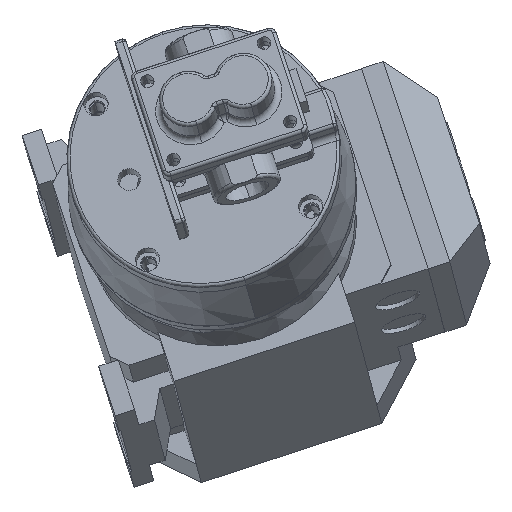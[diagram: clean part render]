
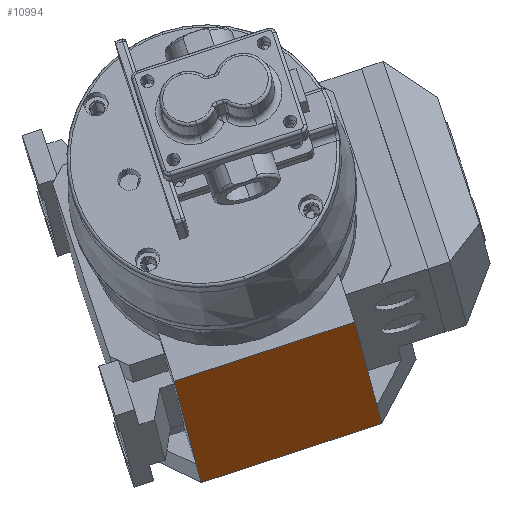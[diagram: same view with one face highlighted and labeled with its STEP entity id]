
A CAD part, top view. The second image highlights one B-rep face of the part: STEP entity #10994.
In plain terms, the highlighted planar face has unit normal (0.301, -0.907, 0.294).
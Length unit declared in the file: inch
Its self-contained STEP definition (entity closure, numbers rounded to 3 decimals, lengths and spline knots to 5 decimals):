
#1098 = DIRECTION ( 'NONE',  ( 0.076, -0.284, -0.956 ) ) ;
#1623 = CARTESIAN_POINT ( 'NONE',  ( 1.64024, -8.63373, 1.96015 ) ) ;
#1691 = CARTESIAN_POINT ( 'NONE',  ( -1.10201, -11.08724, -2.80163 ) ) ;
#1918 = EDGE_CURVE ( 'NONE', #4844, #5272, #11934, .T. ) ;
#2267 = VECTOR ( 'NONE', #24303, 39.37008 ) ;
#2825 = VECTOR ( 'NONE', #24440, 39.37008 ) ;
#3073 = EDGE_CURVE ( 'NONE', #5131, #4844, #19110, .T. ) ;
#3218 = DIRECTION ( 'NONE',  ( -0.951, -0.31, 0.016 ) ) ;
#3311 = ORIENTED_EDGE ( 'NONE', *, *, #14094, .T. ) ;
#3337 = CARTESIAN_POINT ( 'NONE',  ( 2.10854, -10.38042, -3.90931 ) ) ;
#3394 = CARTESIAN_POINT ( 'NONE',  ( 2.10854, -10.38042, -3.90931 ) ) ;
#3722 = CARTESIAN_POINT ( 'NONE',  ( 2.02449, -10.06691, -2.85582 ) ) ;
#3953 = CARTESIAN_POINT ( 'NONE',  ( -1.01795, -11.40075, -3.85512 ) ) ;
#4561 = CARTESIAN_POINT ( 'NONE',  ( -1.01795, -11.40075, -3.85512 ) ) ;
#4844 = VERTEX_POINT ( 'NONE', #18154 ) ;
#5040 = FACE_OUTER_BOUND ( 'NONE', #23801, .T. ) ;
#5131 = VERTEX_POINT ( 'NONE', #20958 ) ;
#5272 = VERTEX_POINT ( 'NONE', #25403 ) ;
#5907 = EDGE_CURVE ( 'NONE', #17938, #21034, #6507, .T. ) ;
#6507 = LINE ( 'NONE', #4561, #2267 ) ;
#7141 = DIRECTION ( 'NONE',  ( 0.301, -0.907, 0.294 ) ) ;
#7147 = VECTOR ( 'NONE', #3218, 39.37008 ) ;
#9537 = ORIENTED_EDGE ( 'NONE', *, *, #3073, .T. ) ;
#9675 = ORIENTED_EDGE ( 'NONE', *, *, #23691, .F. ) ;
#9696 = DIRECTION ( 'NONE',  ( 0.951, 0.31, -0.016 ) ) ;
#10994 = ADVANCED_FACE ( 'NONE', ( #5040 ), #11036, .T. ) ;
#11036 = PLANE ( 'NONE',  #22416 ) ;
#11169 = ORIENTED_EDGE ( 'NONE', *, *, #16217, .T. ) ;
#11516 = CARTESIAN_POINT ( 'NONE',  ( -1.01795, -11.40075, -3.85512 ) ) ;
#11934 = LINE ( 'NONE', #3722, #14216 ) ;
#12622 = VECTOR ( 'NONE', #21591, 39.37008 ) ;
#14094 = EDGE_CURVE ( 'NONE', #17938, #5131, #17829, .T. ) ;
#14216 = VECTOR ( 'NONE', #15753, 39.37008 ) ;
#14814 = ORIENTED_EDGE ( 'NONE', *, *, #5907, .F. ) ;
#15753 = DIRECTION ( 'NONE',  ( -0.076, 0.284, 0.956 ) ) ;
#16217 = EDGE_CURVE ( 'NONE', #5272, #23557, #17604, .T. ) ;
#17604 = LINE ( 'NONE', #1623, #7147 ) ;
#17829 = LINE ( 'NONE', #3953, #19890 ) ;
#17938 = VERTEX_POINT ( 'NONE', #11516 ) ;
#18154 = CARTESIAN_POINT ( 'NONE',  ( 2.02449, -10.06691, -2.85582 ) ) ;
#19110 = LINE ( 'NONE', #3394, #12622 ) ;
#19509 = ORIENTED_EDGE ( 'NONE', *, *, #1918, .T. ) ;
#19890 = VECTOR ( 'NONE', #9696, 39.37008 ) ;
#20260 = LINE ( 'NONE', #21982, #2825 ) ;
#20958 = CARTESIAN_POINT ( 'NONE',  ( 2.10854, -10.38042, -3.90931 ) ) ;
#21034 = VERTEX_POINT ( 'NONE', #1691 ) ;
#21591 = DIRECTION ( 'NONE',  ( -0.076, 0.284, 0.956 ) ) ;
#21982 = CARTESIAN_POINT ( 'NONE',  ( -1.10201, -11.08724, -2.80163 ) ) ;
#22416 = AXIS2_PLACEMENT_3D ( 'NONE', #3337, #7141, #1098 ) ;
#23557 = VERTEX_POINT ( 'NONE', #25630 ) ;
#23691 = EDGE_CURVE ( 'NONE', #21034, #23557, #20260, .T. ) ;
#23801 = EDGE_LOOP ( 'NONE', ( #9675, #14814, #3311, #9537, #19509, #11169 ) ) ;
#24303 = DIRECTION ( 'NONE',  ( -0.076, 0.284, 0.956 ) ) ;
#24440 = DIRECTION ( 'NONE',  ( -0.076, 0.284, 0.956 ) ) ;
#25403 = CARTESIAN_POINT ( 'NONE',  ( 1.64024, -8.63373, 1.96015 ) ) ;
#25630 = CARTESIAN_POINT ( 'NONE',  ( -1.48625, -9.65406, 2.01435 ) ) ;
